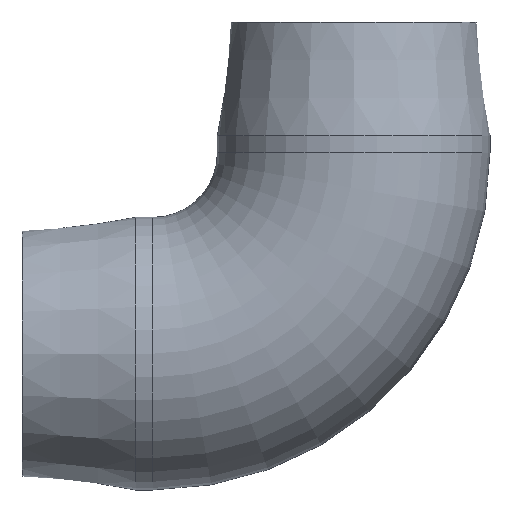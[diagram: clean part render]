
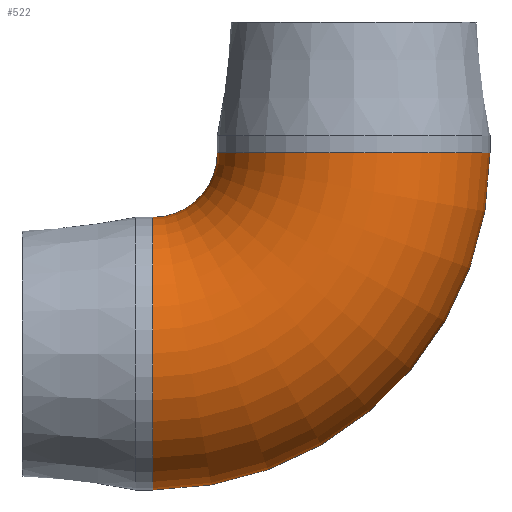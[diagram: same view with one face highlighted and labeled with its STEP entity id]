
A CAD part, front view. The second image highlights one B-rep face of the part: STEP entity #522.
In plain terms, the highlighted toroidal (fillet/blend) face has major radius 105.042 mm and minor radius 71.247 mm.
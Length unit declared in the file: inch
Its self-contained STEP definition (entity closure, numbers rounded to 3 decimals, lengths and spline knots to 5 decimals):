
#26=TOROIDAL_SURFACE('',#584,4.1355,2.805);
#49=FACE_OUTER_BOUND('',#80,.T.);
#80=EDGE_LOOP('',(#370,#371,#372,#373,#374,#375,#376,#377));
#163=CIRCLE('',#585,2.805);
#164=CIRCLE('',#586,2.805);
#165=CIRCLE('',#587,1.3305);
#166=CIRCLE('',#588,2.805);
#167=CIRCLE('',#589,2.805);
#168=CIRCLE('',#590,2.805);
#169=CIRCLE('',#591,2.805);
#224=VERTEX_POINT('',#881);
#225=VERTEX_POINT('',#882);
#226=VERTEX_POINT('',#884);
#227=VERTEX_POINT('',#886);
#228=VERTEX_POINT('',#888);
#229=VERTEX_POINT('',#890);
#284=EDGE_CURVE('',#224,#225,#163,.T.);
#285=EDGE_CURVE('',#225,#226,#164,.T.);
#286=EDGE_CURVE('',#226,#227,#165,.T.);
#287=EDGE_CURVE('',#227,#228,#166,.T.);
#288=EDGE_CURVE('',#228,#229,#167,.T.);
#289=EDGE_CURVE('',#229,#227,#168,.T.);
#290=EDGE_CURVE('',#226,#224,#169,.T.);
#370=ORIENTED_EDGE('',*,*,#284,.T.);
#371=ORIENTED_EDGE('',*,*,#285,.T.);
#372=ORIENTED_EDGE('',*,*,#286,.T.);
#373=ORIENTED_EDGE('',*,*,#287,.T.);
#374=ORIENTED_EDGE('',*,*,#288,.T.);
#375=ORIENTED_EDGE('',*,*,#289,.T.);
#376=ORIENTED_EDGE('',*,*,#286,.F.);
#377=ORIENTED_EDGE('',*,*,#290,.T.);
#522=ADVANCED_FACE('',(#49),#26,.T.);
#584=AXIS2_PLACEMENT_3D('',#880,#678,#679);
#585=AXIS2_PLACEMENT_3D('',#883,#680,#681);
#586=AXIS2_PLACEMENT_3D('',#885,#682,#683);
#587=AXIS2_PLACEMENT_3D('',#887,#684,#685);
#588=AXIS2_PLACEMENT_3D('',#889,#686,#687);
#589=AXIS2_PLACEMENT_3D('',#891,#688,#689);
#590=AXIS2_PLACEMENT_3D('',#892,#690,#691);
#591=AXIS2_PLACEMENT_3D('',#893,#692,#693);
#678=DIRECTION('center_axis',(0.,-1.,0.));
#679=DIRECTION('ref_axis',(0.,0.,-1.));
#680=DIRECTION('center_axis',(0.,0.,
-1.));
#681=DIRECTION('ref_axis',(-1.,0.,0.));
#682=DIRECTION('center_axis',(0.,0.,
-1.));
#683=DIRECTION('ref_axis',(-1.,0.,0.));
#684=DIRECTION('center_axis',(0.,1.,0.));
#685=DIRECTION('ref_axis',(0.,0.,-1.));
#686=DIRECTION('center_axis',(1.,0.,0.));
#687=DIRECTION('ref_axis',(0.,0.,-1.));
#688=DIRECTION('center_axis',(1.,0.,0.));
#689=DIRECTION('ref_axis',(0.,0.,-1.));
#690=DIRECTION('center_axis',(1.,0.,0.));
#691=DIRECTION('ref_axis',(0.,0.,-1.));
#692=DIRECTION('center_axis',(0.,0.,
-1.));
#693=DIRECTION('ref_axis',(-1.,0.,0.));
#880=CARTESIAN_POINT('Origin',(-4.1355,0.,4.1355));
#881=CARTESIAN_POINT('',(0.,2.805,4.1355));
#882=CARTESIAN_POINT('',(0.,-2.805,4.1355));
#883=CARTESIAN_POINT('Origin',(0.,0.,
4.1355));
#884=CARTESIAN_POINT('',(-2.805,0.,4.1355));
#885=CARTESIAN_POINT('Origin',(0.,0.,
4.1355));
#886=CARTESIAN_POINT('',(-4.1355,0.,2.805));
#887=CARTESIAN_POINT('Origin',(-4.1355,0.,4.1355));
#888=CARTESIAN_POINT('',(-4.1355,-2.805,0.));
#889=CARTESIAN_POINT('Origin',(-4.1355,0.,0.));
#890=CARTESIAN_POINT('',(-4.1355,2.805,0.));
#891=CARTESIAN_POINT('Origin',(-4.1355,0.,0.));
#892=CARTESIAN_POINT('Origin',(-4.1355,0.,0.));
#893=CARTESIAN_POINT('Origin',(0.,0.,
4.1355));
